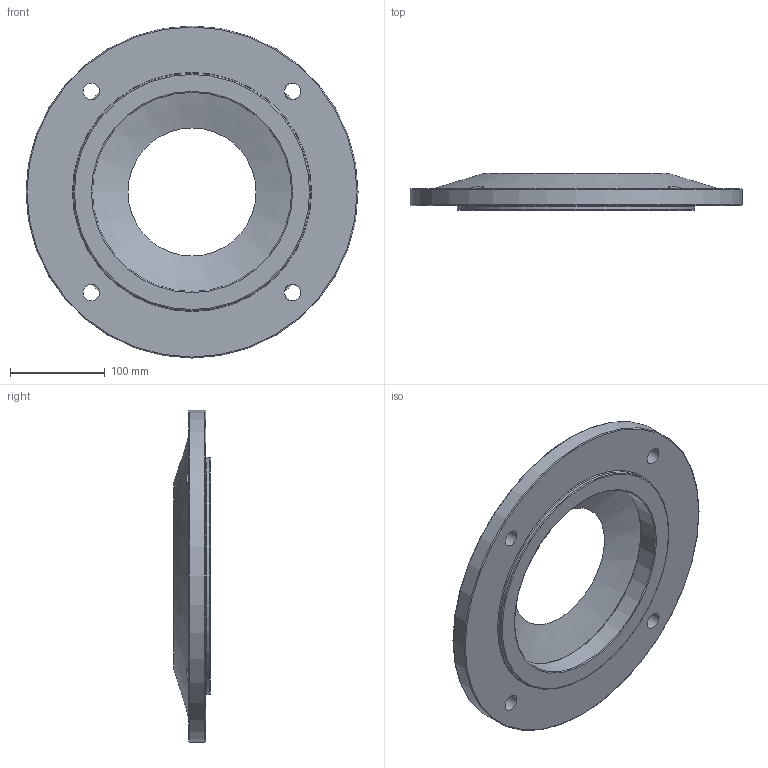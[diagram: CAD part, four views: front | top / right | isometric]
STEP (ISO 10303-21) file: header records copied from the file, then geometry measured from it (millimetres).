
FILE_DESCRIPTION((''),'2;1');
FILE_NAME('D:\PAWEŁ\ZLECENIA\DualSystem\001 Modele\DKAB80_\DK_80_STEP\AF_F_80.stp','2011-11-26T09:47:11',('Pawe'),(''),'Autodesk Inventor 2009','Autodesk Inventor 2009','');
FILE_SCHEMA(('AUTOMOTIVE_DESIGN { 1 0 10303 214 1 1 1 1 }'));
Length unit declared in the file: millimetre
Products named in the file (1): AF_F_80
Bounding box: 350 x 39 x 350 mm (x, y, z)
Volume: 1489999.5 mm3; surface area: 227271.2 mm2
Topology: 1 solids, 1 shells, 28 faces, 75 edges, 48 vertices
Faces by surface type: bspline 13, plane 5, torus 5, cylinder 3, cone 2
Full cylindrical faces by diameter (mm): 210 x1, 250 x1, 350 x1
Entity records: 1020 total; most frequent: CARTESIAN_POINT 411, DIRECTION 110, ORIENTED_EDGE 110, AXIS2_PLACEMENT_3D 55, EDGE_CURVE 55, EDGE_LOOP 52, VERTEX_POINT 43, CIRCLE 39
